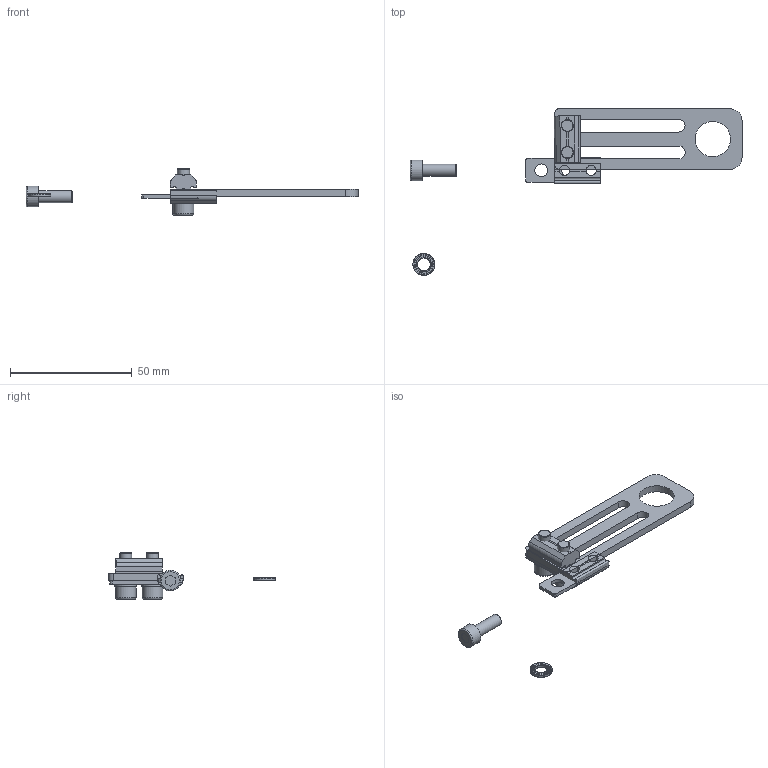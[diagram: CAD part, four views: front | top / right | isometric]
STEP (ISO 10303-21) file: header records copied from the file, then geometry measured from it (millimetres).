
FILE_DESCRIPTION( ( 'STEP AP214' ), '1' );
FILE_NAME( 'C:/Users/Segreteria/Desktop/CA.04.20.14.X.stp', '2014-07-11T13:09:40', ( ' ' ), ( ' ' ), 'XStep 1.0', ' ', ' ' );
FILE_SCHEMA( ( 'CONFIG_CONTROL_DESIGN) ( )' ) );
Length unit declared in the file: metre
Products named in the file (9): Assem1; Assem2; 04.20.14; CA.GWP.5.11; R.05.11; R.5.SCH; V-tcei M  5 x 14
Bounding box: 136.5 x 68.53 x 19 mm (x, y, z)
Volume: 15540.2 mm3; surface area: 16634.6 mm2
Topology: 11 solids, 15 shells, 971 faces, 2827 edges, 1874 vertices
Faces by surface type: plane 876, cylinder 83, torus 8, cone 4
Full cylindrical faces by diameter (mm): 4.134 x4, 5 x4, 5.3 x8, 8.5 x4, 9 x4, 14.5 x3
Entity records: 16077 total; most frequent: CARTESIAN_POINT 2832, DIRECTION 2775, ORIENTED_EDGE 2722, EDGE_CURVE 1361, AXIS2_PLACEMENT_3D 937, VERTEX_POINT 914, LINE 901, VECTOR 901
